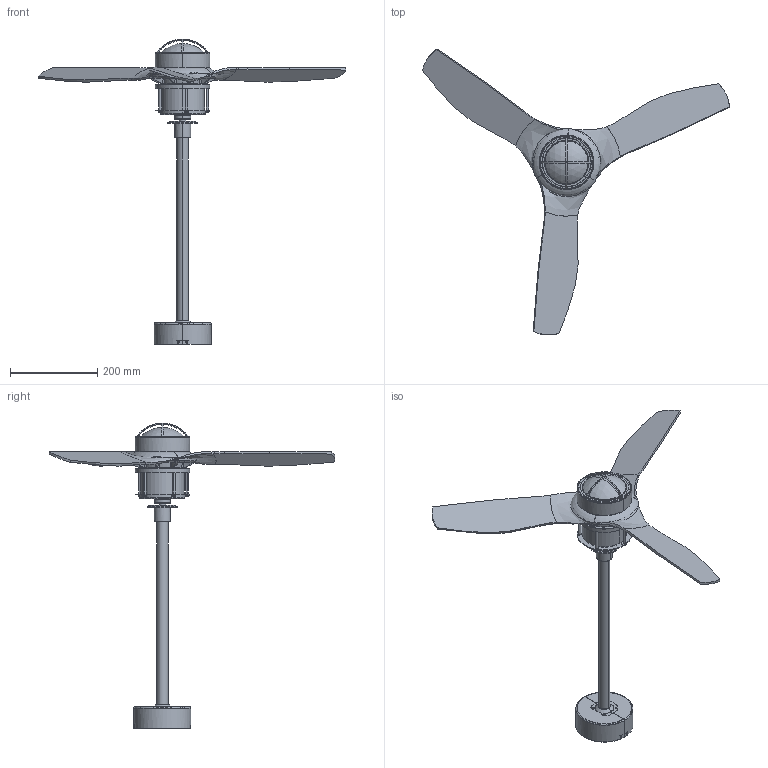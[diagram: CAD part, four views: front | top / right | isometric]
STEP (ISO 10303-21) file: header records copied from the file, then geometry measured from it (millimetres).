
FILE_DESCRIPTION(/* description */ (''),/* implementation_level */ '2;1');
FILE_NAME(/* name */ 'C:\Users\Franco Sartori E\Documents\FARO\DUPLICADO\Modelos\01_Digitalizados\00_OK\JUST FAN\03_Publicación\810-LK\33428-10.stp',/* time_stamp */ '2021-03-16T09:48:41+01:00',/* author */ ('Franco Sartori E'),/* organization */ (''),/* preprocessor_version */ 'ST-DEVELOPER v18.1',/* originating_system */ 'AutoCAD Mechanical',/* authorisation */ '');
FILE_SCHEMA (('AUTOMOTIVE_DESIGN { 1 0 10303 214 3 1 1 }'));
Length unit declared in the file: millimetre
Products named in the file (3): Product; 33423_33424_33425_33426_33427_33428_33429_JUSTFAN_L - JUST FAN-457714
-_3D_; 33390_33391LigKIT - LT-457713-_3D_
Assembly tree (2 placements, depth 2):
  Product
    33423_33424_33425_33426_33427_33428_33429_JUSTFAN_L - JUST FAN-457714
-_3D_
    33390_33391LigKIT - LT-457713-_3D_
Bounding box: 706.13 x 656.69 x 702.04 mm (x, y, z)
Volume: 1407518.7 mm3; surface area: 618271.3 mm2
Topology: 25 solids, 26 shells, 695 faces, 1801 edges, 1160 vertices
Faces by surface type: cylinder 240, plane 217, bspline 124, torus 79, cone 31, sphere 4
Entity records: 33274 total; most frequent: CARTESIAN_POINT 17563, ORIENTED_EDGE 3514, DIRECTION 2689, EDGE_CURVE 1801, VERTEX_POINT 1160, AXIS2_PLACEMENT_3D 1030, EDGE_LOOP 775, B_SPLINE_CURVE_WITH_KNOTS 716
